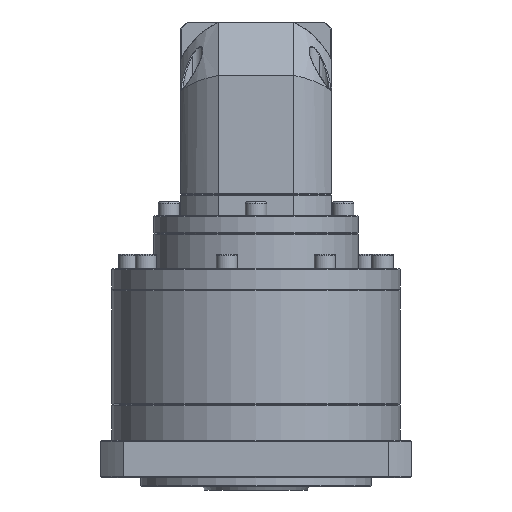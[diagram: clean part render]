
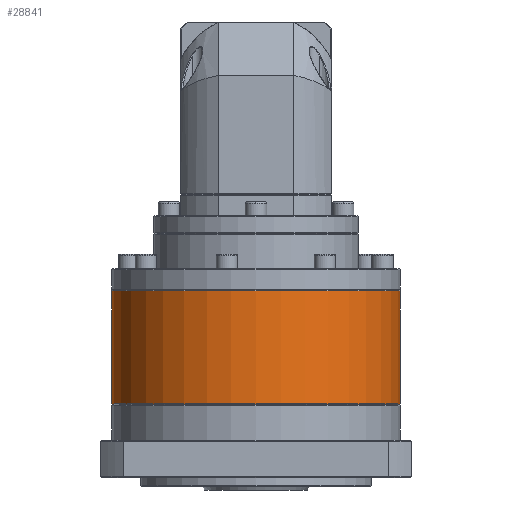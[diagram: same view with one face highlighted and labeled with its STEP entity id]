
A CAD part, front view. The second image highlights one B-rep face of the part: STEP entity #28841.
In plain terms, the highlighted cylindrical face has radius 81 mm (diameter 162 mm), a partial arc.
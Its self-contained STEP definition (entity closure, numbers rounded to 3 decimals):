
#2583 = VERTEX_POINT ( 'NONE', #142051 ) ;
#16611 = CARTESIAN_POINT ( 'NONE',  ( -227.599, 169.077, -65.029 ) ) ;
#18647 = DIRECTION ( 'NONE',  ( 0., 0., 1. ) ) ;
#19122 = DIRECTION ( 'NONE',  ( 0., 0., -1. ) ) ;
#22145 = EDGE_CURVE ( 'NONE', #64845, #2583, #120047, .T. ) ;
#23747 = CARTESIAN_POINT ( 'NONE',  ( -65.599, 169.077, -65.029 ) ) ;
#28841 = ADVANCED_FACE ( 'NONE', ( #120246 ), #130653, .T. ) ;
#34824 = VERTEX_POINT ( 'NONE', #43521 ) ;
#38527 = VECTOR ( 'NONE', #55632, 1000. ) ;
#41763 = CARTESIAN_POINT ( 'NONE',  ( -146.599, 169.077, -129.029 ) ) ;
#43521 = CARTESIAN_POINT ( 'NONE',  ( -227.599, 169.077, -129.029 ) ) ;
#43899 = EDGE_CURVE ( 'NONE', #34824, #134524, #132453, .T. ) ;
#51109 = CARTESIAN_POINT ( 'NONE',  ( -146.599, 169.077, -65.529 ) ) ;
#52823 = AXIS2_PLACEMENT_3D ( 'NONE', #51109, #128519, #140644 ) ;
#55632 = DIRECTION ( 'NONE',  ( 0., 0., -1. ) ) ;
#58920 = AXIS2_PLACEMENT_3D ( 'NONE', #41763, #18647, #119142 ) ;
#64845 = VERTEX_POINT ( 'NONE', #142529 ) ;
#66787 = EDGE_CURVE ( 'NONE', #90905, #134524, #107825, .T. ) ;
#67976 = DIRECTION ( 'NONE',  ( 0., 0., -1. ) ) ;
#68637 = ORIENTED_EDGE ( 'NONE', *, *, #43899, .T. ) ;
#69390 = DIRECTION ( 'NONE',  ( -1., 0., 0. ) ) ;
#75364 = EDGE_LOOP ( 'NONE', ( #90833, #123776, #91687, #86100, #68637 ) ) ;
#81668 = VECTOR ( 'NONE', #128704, 1000. ) ;
#86100 = ORIENTED_EDGE ( 'NONE', *, *, #101521, .T. ) ;
#86284 = CARTESIAN_POINT ( 'NONE',  ( -146.599, 169.077, -65.029 ) ) ;
#90833 = ORIENTED_EDGE ( 'NONE', *, *, #66787, .F. ) ;
#90905 = VERTEX_POINT ( 'NONE', #95277 ) ;
#91687 = ORIENTED_EDGE ( 'NONE', *, *, #22145, .T. ) ;
#95277 = CARTESIAN_POINT ( 'NONE',  ( -65.599, 169.077, -65.529 ) ) ;
#96479 = DIRECTION ( 'NONE',  ( -1., 0., 0. ) ) ;
#101521 = EDGE_CURVE ( 'NONE', #2583, #34824, #123128, .T. ) ;
#105841 = CIRCLE ( 'NONE', #52823, 81. ) ;
#107825 = LINE ( 'NONE', #23747, #38527 ) ;
#115800 = EDGE_CURVE ( 'NONE', #90905, #64845, #105841, .T. ) ;
#119142 = DIRECTION ( 'NONE',  ( -1., 0., 0. ) ) ;
#120047 = CIRCLE ( 'NONE', #133572, 81. ) ;
#120246 = FACE_OUTER_BOUND ( 'NONE', #75364, .T. ) ;
#123128 = LINE ( 'NONE', #16611, #81668 ) ;
#123776 = ORIENTED_EDGE ( 'NONE', *, *, #115800, .T. ) ;
#128519 = DIRECTION ( 'NONE',  ( 0., 0., -1. ) ) ;
#128704 = DIRECTION ( 'NONE',  ( 0., 0., -1. ) ) ;
#130653 = CYLINDRICAL_SURFACE ( 'NONE', #139839, 81. ) ;
#132453 = CIRCLE ( 'NONE', #58920, 81. ) ;
#133572 = AXIS2_PLACEMENT_3D ( 'NONE', #133771, #67976, #69390 ) ;
#133771 = CARTESIAN_POINT ( 'NONE',  ( -146.599, 169.077, -65.529 ) ) ;
#134524 = VERTEX_POINT ( 'NONE', #141383 ) ;
#139839 = AXIS2_PLACEMENT_3D ( 'NONE', #86284, #19122, #96479 ) ;
#140644 = DIRECTION ( 'NONE',  ( -1., 0., 0. ) ) ;
#141383 = CARTESIAN_POINT ( 'NONE',  ( -65.599, 169.077, -129.029 ) ) ;
#142051 = CARTESIAN_POINT ( 'NONE',  ( -227.599, 169.077, -65.529 ) ) ;
#142529 = CARTESIAN_POINT ( 'NONE',  ( -146.599, 88.077, -65.529 ) ) ;
